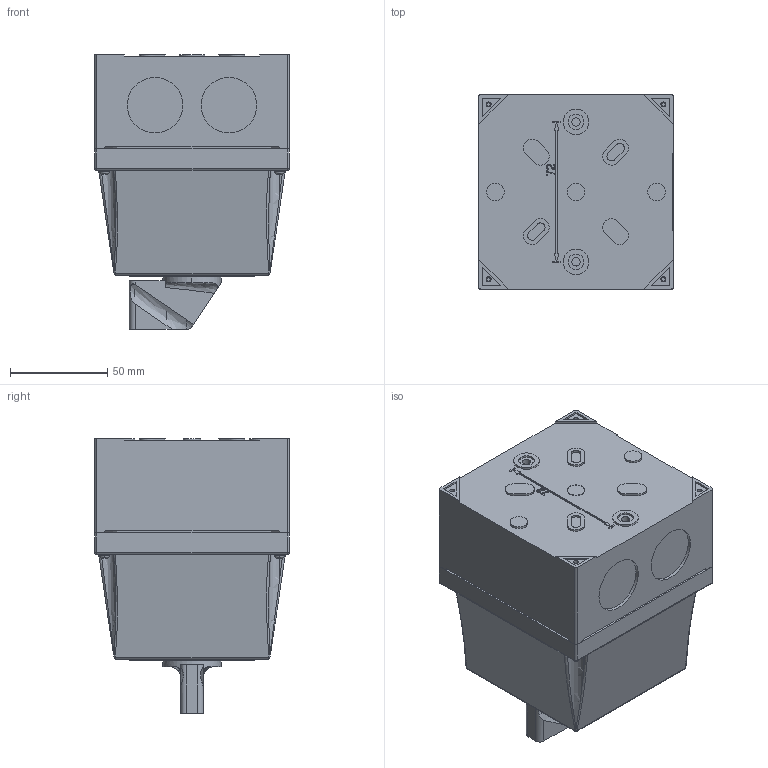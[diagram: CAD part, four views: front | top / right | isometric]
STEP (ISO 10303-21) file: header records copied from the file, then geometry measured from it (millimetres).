
FILE_DESCRIPTION (( 'STEP AP214' ), '1' );
FILE_NAME ('Ïåðåêëþ÷àòåëü 4G16,25-XXXX-PK-R112,R114,S24 4ê.STEP', '2022-12-21T10:41:28', ( '' ), ( '' ), 'SwSTEP 2.0', 'SolidWorks 2018', '' );
FILE_SCHEMA (( 'AUTOMOTIVE_DESIGN' ));
Length unit declared in the file: millimetre
Products named in the file (1): Ïåðåêëþ÷àòåëü 4G16,25-XXXX-PK-R112,R114,S24 4ê
Bounding box: 100 x 100 x 141.32 mm (x, y, z)
Volume: 168480 mm3; surface area: 146563.8 mm2
Topology: 9 solids, 9 shells, 1108 faces, 2970 edges, 1940 vertices
Faces by surface type: plane 543, cylinder 439, torus 57, bspline 41, cone 16, sphere 12
Entity records: 90162 total; most frequent: CARTESIAN_POINT 51002, ORIENTED_EDGE 5922, DIRECTION 5304, EDGE_CURVE 2961, VERTEX_POINT 1940, AXIS2_PLACEMENT_3D 1851, VECTOR 1602, LINE 1602
